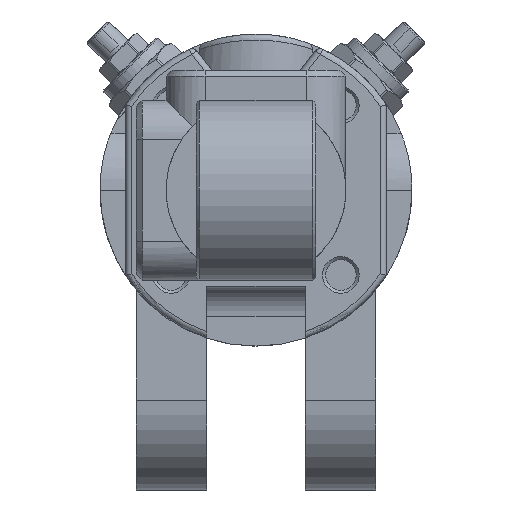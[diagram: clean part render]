
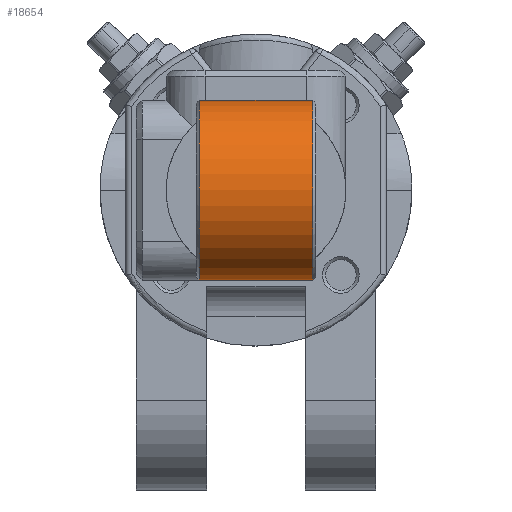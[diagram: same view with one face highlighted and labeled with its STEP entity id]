
A CAD part, front view. The second image highlights one B-rep face of the part: STEP entity #18654.
In plain terms, the highlighted cylindrical face has radius 15 mm (diameter 30 mm), a full revolution.
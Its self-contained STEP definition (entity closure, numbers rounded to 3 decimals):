
#18567=CARTESIAN_POINT('',(9.5,-53.5,0.));
#18568=VERTEX_POINT('',#18567);
#18569=CARTESIAN_POINT('',(9.5,-68.5,0.0));
#18570=DIRECTION('',(1.0,0.0,0.0));
#18571=DIRECTION('',(0.0,-1.0,0.0));
#18572=AXIS2_PLACEMENT_3D('',#18569,#18570,#18571);
#18573=CIRCLE('',#18572,15.0);
#18574=EDGE_CURVE('',#18568,#18568,#18573,.T.);
#18579=CARTESIAN_POINT('',(0.0,-68.5,0.0));
#18580=DIRECTION('',(1.0,0.0,0.0));
#18581=DIRECTION('',(0.0,-1.0,0.0));
#18582=AXIS2_PLACEMENT_3D('',#18579,#18580,#18581);
#18583=CYLINDRICAL_SURFACE('',#18582,15.0);
#18584=CARTESIAN_POINT('',(-9.5,-53.5,0.));
#18585=VERTEX_POINT('',#18584);
#18586=CARTESIAN_POINT('',(-9.5,-68.5,0.0));
#18587=DIRECTION('',(-1.0,0.0,0.0));
#18588=DIRECTION('',(0.0,-1.0,0.0));
#18589=AXIS2_PLACEMENT_3D('',#18586,#18587,#18588);
#18590=CIRCLE('',#18589,15.0);
#18591=EDGE_CURVE('',#18585,#18585,#18590,.T.);
#18592=ORIENTED_EDGE('',*,*,#18591,.F.);
#18593=EDGE_LOOP('',(#18592));
#18594=FACE_OUTER_BOUND('',#18593,.T.);
#18595=CARTESIAN_POINT('',(-9.,-59.5,-12.));
#18596=VERTEX_POINT('',#18595);
#18597=CARTESIAN_POINT('',(-9.0,-59.5,12.));
#18598=VERTEX_POINT('',#18597);
#18599=CARTESIAN_POINT('',(-9.0,-68.5,0.0));
#18600=DIRECTION('',(1.0,0.0,0.0));
#18601=DIRECTION('',(0.0,-1.0,0.0));
#18602=AXIS2_PLACEMENT_3D('',#18599,#18600,#18601);
#18603=CIRCLE('',#18602,15.0);
#18604=EDGE_CURVE('',#18596,#18598,#18603,.T.);
#18605=ORIENTED_EDGE('',*,*,#18604,.F.);
#18606=CARTESIAN_POINT('',(0.0,-68.5,-15.));
#18607=VERTEX_POINT('',#18606);
#18608=CARTESIAN_POINT('',(0.0,-68.5,0.0));
#18609=DIRECTION('',(0.707,0.707,0.0));
#18610=DIRECTION('',(0.707,-0.707,0.0));
#18611=AXIS2_PLACEMENT_3D('',#18608,#18609,#18610);
#18612=ELLIPSE('',#18611,21.213,15.);
#18613=EDGE_CURVE('',#18607,#18596,#18612,.T.);
#18614=ORIENTED_EDGE('',*,*,#18613,.F.);
#18615=CARTESIAN_POINT('',(9.0,-59.5,-12.));
#18616=VERTEX_POINT('',#18615);
#18617=CARTESIAN_POINT('',(0.0,-68.5,0.0));
#18618=DIRECTION('',(-0.707,0.707,0.0));
#18619=DIRECTION('',(-0.707,-0.707,0.0));
#18620=AXIS2_PLACEMENT_3D('',#18617,#18618,#18619);
#18621=ELLIPSE('',#18620,21.213,15.);
#18622=EDGE_CURVE('',#18616,#18607,#18621,.T.);
#18623=ORIENTED_EDGE('',*,*,#18622,.F.);
#18624=CARTESIAN_POINT('',(9.,-59.5,12.));
#18625=VERTEX_POINT('',#18624);
#18626=CARTESIAN_POINT('',(9.,-68.5,0.0));
#18627=DIRECTION('',(-1.0,0.0,0.0));
#18628=DIRECTION('',(0.0,-1.0,0.0));
#18629=AXIS2_PLACEMENT_3D('',#18626,#18627,#18628);
#18630=CIRCLE('',#18629,15.0);
#18631=EDGE_CURVE('',#18625,#18616,#18630,.T.);
#18632=ORIENTED_EDGE('',*,*,#18631,.F.);
#18633=CARTESIAN_POINT('',(0.0,-68.5,15.));
#18634=VERTEX_POINT('',#18633);
#18635=CARTESIAN_POINT('',(0.0,-68.5,0.0));
#18636=DIRECTION('',(-0.707,0.707,0.0));
#18637=DIRECTION('',(-0.707,-0.707,0.0));
#18638=AXIS2_PLACEMENT_3D('',#18635,#18636,#18637);
#18639=ELLIPSE('',#18638,21.213,15.);
#18640=EDGE_CURVE('',#18634,#18625,#18639,.T.);
#18641=ORIENTED_EDGE('',*,*,#18640,.F.);
#18642=CARTESIAN_POINT('',(0.0,-68.5,0.0));
#18643=DIRECTION('',(0.707,0.707,0.0));
#18644=DIRECTION('',(0.707,-0.707,0.0));
#18645=AXIS2_PLACEMENT_3D('',#18642,#18643,#18644);
#18646=ELLIPSE('',#18645,21.213,15.);
#18647=EDGE_CURVE('',#18598,#18634,#18646,.T.);
#18648=ORIENTED_EDGE('',*,*,#18647,.F.);
#18649=EDGE_LOOP('',(#18605,#18614,#18623,#18632,#18641,#18648));
#18650=FACE_BOUND('',#18649,.T.);
#18651=ORIENTED_EDGE('',*,*,#18574,.F.);
#18652=EDGE_LOOP('',(#18651));
#18653=FACE_BOUND('',#18652,.T.);
#18654=ADVANCED_FACE('',(#18594,#18650,#18653),#18583,.T.);
